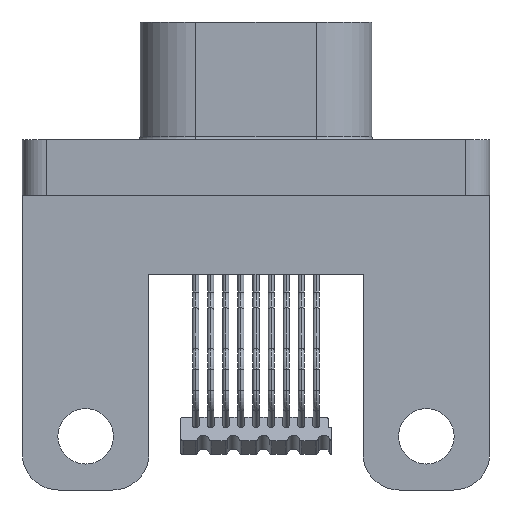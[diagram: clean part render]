
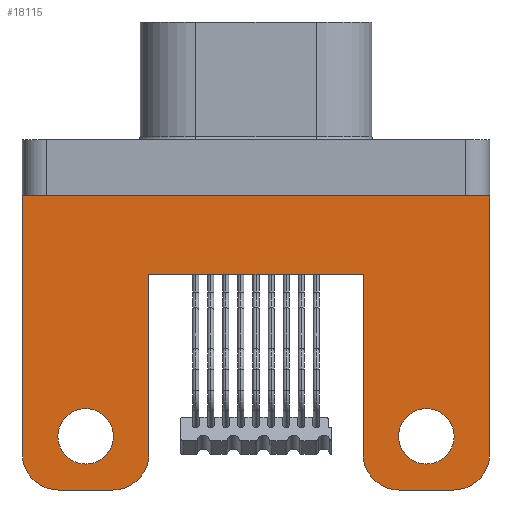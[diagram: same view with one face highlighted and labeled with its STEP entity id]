
A CAD part, front view. The second image highlights one B-rep face of the part: STEP entity #18115.
In plain terms, the highlighted planar face has unit normal (0, -1, 0).
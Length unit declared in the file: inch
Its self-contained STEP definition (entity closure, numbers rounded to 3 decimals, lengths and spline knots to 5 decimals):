
#48 = EDGE_CURVE ( 'NONE', #16648, #7476, #4229, .T. ) ;
#103 = VERTEX_POINT ( 'NONE', #6151 ) ;
#108 = ORIENTED_EDGE ( 'NONE', *, *, #16664, .T. ) ;
#649 = DIRECTION ( 'NONE',  ( 0., 0., 1. ) ) ;
#895 = CARTESIAN_POINT ( 'NONE',  ( 0.3875, -0.17, -0.053 ) ) ;
#1219 = LINE ( 'NONE', #5193, #12667 ) ;
#1389 = CARTESIAN_POINT ( 'NONE',  ( 0.2825, -0.17, -0.452 ) ) ;
#1493 = CARTESIAN_POINT ( 'NONE',  ( 0.3875, -0.17, -0.184 ) ) ;
#1605 = DIRECTION ( 'NONE',  ( -1., 0., 0. ) ) ;
#1625 = AXIS2_PLACEMENT_3D ( 'NONE', #11658, #2302, #13223 ) ;
#1743 = VERTEX_POINT ( 'NONE', #7533 ) ;
#1761 = VERTEX_POINT ( 'NONE', #20035 ) ;
#1768 = VERTEX_POINT ( 'NONE', #4445 ) ;
#1861 = ORIENTED_EDGE ( 'NONE', *, *, #48, .F. ) ;
#1895 = CARTESIAN_POINT ( 'NONE',  ( -0.3285, -0.17, -0.452 ) ) ;
#1905 = CARTESIAN_POINT ( 'NONE',  ( 0., -0.17, -0.541 ) ) ;
#1973 = AXIS2_PLACEMENT_3D ( 'NONE', #16251, #6928, #17832 ) ;
#2184 = EDGE_CURVE ( 'NONE', #4215, #7476, #18905, .T. ) ;
#2302 = DIRECTION ( 'NONE',  ( 0., -1., 0. ) ) ;
#2734 = LINE ( 'NONE', #18046, #10567 ) ;
#2949 = DIRECTION ( 'NONE',  ( 0., 0., 1. ) ) ;
#2997 = CIRCLE ( 'NONE', #16223, 0.046 ) ;
#3105 = CARTESIAN_POINT ( 'NONE',  ( 0.3875, -0.17, -0.053 ) ) ;
#3167 = CARTESIAN_POINT ( 'NONE',  ( 0., -0.17, -0.541 ) ) ;
#3399 = VECTOR ( 'NONE', #6510, 39.37008 ) ;
#3528 = FACE_OUTER_BOUND ( 'NONE', #20017, .T. ) ;
#3538 = LINE ( 'NONE', #16453, #7234 ) ;
#3769 = CARTESIAN_POINT ( 'NONE',  ( 0.3285, -0.17, -0.452 ) ) ;
#3860 = DIRECTION ( 'NONE',  ( 0., -1., 0. ) ) ;
#3877 = CARTESIAN_POINT ( 'NONE',  ( 0.1775, -0.17, -0.481 ) ) ;
#3939 = ORIENTED_EDGE ( 'NONE', *, *, #6059, .F. ) ;
#4215 = VERTEX_POINT ( 'NONE', #3877 ) ;
#4229 = LINE ( 'NONE', #1905, #15651 ) ;
#4289 = EDGE_CURVE ( 'NONE', #10977, #7493, #2734, .T. ) ;
#4361 = CARTESIAN_POINT ( 'NONE',  ( 0.2375, -0.17, -0.541 ) ) ;
#4445 = CARTESIAN_POINT ( 'NONE',  ( -0.1775, -0.17, -0.184 ) ) ;
#4770 = CARTESIAN_POINT ( 'NONE',  ( -0.1775, -0.17, -0.481 ) ) ;
#4792 = EDGE_CURVE ( 'NONE', #1768, #1743, #14665, .T. ) ;
#5032 = EDGE_LOOP ( 'NONE', ( #19955, #5173 ) ) ;
#5173 = ORIENTED_EDGE ( 'NONE', *, *, #19146, .T. ) ;
#5193 = CARTESIAN_POINT ( 'NONE',  ( 0.1775, -0.17, -1.3404 ) ) ;
#5212 = CIRCLE ( 'NONE', #1973, 0.046 ) ;
#5319 = CARTESIAN_POINT ( 'NONE',  ( 0.3875, -0.17, -1.02247 ) ) ;
#5524 = EDGE_CURVE ( 'NONE', #10977, #103, #12212, .T. ) ;
#5850 = VECTOR ( 'NONE', #6263, 39.37008 ) ;
#6017 = DIRECTION ( 'NONE',  ( 0., 1., 0. ) ) ;
#6059 = EDGE_CURVE ( 'NONE', #9235, #103, #12112, .T. ) ;
#6139 = AXIS2_PLACEMENT_3D ( 'NONE', #19326, #10013, #649 ) ;
#6151 = CARTESIAN_POINT ( 'NONE',  ( -0.3275, -0.17, -0.541 ) ) ;
#6263 = DIRECTION ( 'NONE',  ( -1., 0., 0. ) ) ;
#6342 = EDGE_CURVE ( 'NONE', #11381, #1768, #3538, .T. ) ;
#6363 = VECTOR ( 'NONE', #12415, 39.37008 ) ;
#6510 = DIRECTION ( 'NONE',  ( 0., 0., 1. ) ) ;
#6565 = EDGE_CURVE ( 'NONE', #9235, #11381, #12553, .T. ) ;
#6677 = AXIS2_PLACEMENT_3D ( 'NONE', #18617, #9280, #20168 ) ;
#6720 = ORIENTED_EDGE ( 'NONE', *, *, #4289, .F. ) ;
#6735 = VERTEX_POINT ( 'NONE', #895 ) ;
#6762 = CIRCLE ( 'NONE', #1625, 0.06 ) ;
#6887 = DIRECTION ( 'NONE',  ( 0., 1., 0. ) ) ;
#6928 = DIRECTION ( 'NONE',  ( 0., 1., 0. ) ) ;
#7081 = VERTEX_POINT ( 'NONE', #9677 ) ;
#7234 = VECTOR ( 'NONE', #8717, 39.37008 ) ;
#7476 = VERTEX_POINT ( 'NONE', #4361 ) ;
#7493 = VERTEX_POINT ( 'NONE', #10642 ) ;
#7533 = CARTESIAN_POINT ( 'NONE',  ( 0.1775, -0.17, -0.184 ) ) ;
#7588 = LINE ( 'NONE', #15837, #3399 ) ;
#7953 = VECTOR ( 'NONE', #1605, 39.37008 ) ;
#8342 = DIRECTION ( 'NONE',  ( 0., 0., 1. ) ) ;
#8717 = DIRECTION ( 'NONE',  ( 0., 0., 1. ) ) ;
#8718 = DIRECTION ( 'NONE',  ( 0., 0., 1. ) ) ;
#8877 = DIRECTION ( 'NONE',  ( 0., -1., 0. ) ) ;
#9051 = ORIENTED_EDGE ( 'NONE', *, *, #5524, .T. ) ;
#9201 = ORIENTED_EDGE ( 'NONE', *, *, #18756, .T. ) ;
#9235 = VERTEX_POINT ( 'NONE', #16727 ) ;
#9280 = DIRECTION ( 'NONE',  ( 0., 1., 0. ) ) ;
#9677 = CARTESIAN_POINT ( 'NONE',  ( 0.3875, -0.17, -0.481 ) ) ;
#9962 = CARTESIAN_POINT ( 'NONE',  ( 0.3275, -0.17, -0.541 ) ) ;
#10013 = DIRECTION ( 'NONE',  ( 0., -1., 0. ) ) ;
#10331 = EDGE_LOOP ( 'NONE', ( #9201, #18967 ) ) ;
#10567 = VECTOR ( 'NONE', #8718, 39.37008 ) ;
#10642 = CARTESIAN_POINT ( 'NONE',  ( -0.3875, -0.17, -0.053 ) ) ;
#10913 = ORIENTED_EDGE ( 'NONE', *, *, #11480, .T. ) ;
#10977 = VERTEX_POINT ( 'NONE', #17446 ) ;
#11041 = ORIENTED_EDGE ( 'NONE', *, *, #14060, .T. ) ;
#11060 = EDGE_CURVE ( 'NONE', #4215, #1743, #1219, .T. ) ;
#11381 = VERTEX_POINT ( 'NONE', #4770 ) ;
#11480 = EDGE_CURVE ( 'NONE', #6735, #7493, #13647, .T. ) ;
#11658 = CARTESIAN_POINT ( 'NONE',  ( 0.3275, -0.17, -0.481 ) ) ;
#11911 = ORIENTED_EDGE ( 'NONE', *, *, #2184, .T. ) ;
#12036 = AXIS2_PLACEMENT_3D ( 'NONE', #15339, #6017, #16894 ) ;
#12112 = LINE ( 'NONE', #3167, #7953 ) ;
#12212 = CIRCLE ( 'NONE', #6139, 0.06 ) ;
#12309 = DIRECTION ( 'NONE',  ( 0., 1., 0. ) ) ;
#12415 = DIRECTION ( 'NONE',  ( 1., 0., 0. ) ) ;
#12553 = CIRCLE ( 'NONE', #15417, 0.06 ) ;
#12604 = AXIS2_PLACEMENT_3D ( 'NONE', #18189, #8877, #19767 ) ;
#12667 = VECTOR ( 'NONE', #8342, 39.37008 ) ;
#12877 = EDGE_CURVE ( 'NONE', #1761, #16250, #14174, .T. ) ;
#13192 = CARTESIAN_POINT ( 'NONE',  ( -0.2375, -0.17, -0.481 ) ) ;
#13223 = DIRECTION ( 'NONE',  ( 0., 0., 1. ) ) ;
#13647 = LINE ( 'NONE', #3105, #5850 ) ;
#14060 = EDGE_CURVE ( 'NONE', #7081, #6735, #7588, .T. ) ;
#14174 = CIRCLE ( 'NONE', #12036, 0.046 ) ;
#14384 = DIRECTION ( 'NONE',  ( -1., 0., 0. ) ) ;
#14652 = PLANE ( 'NONE',  #14657 ) ;
#14657 = AXIS2_PLACEMENT_3D ( 'NONE', #5319, #6887, #17789 ) ;
#14665 = LINE ( 'NONE', #1493, #6363 ) ;
#14754 = DIRECTION ( 'NONE',  ( 0., 0., 1. ) ) ;
#14830 = ORIENTED_EDGE ( 'NONE', *, *, #6565, .T. ) ;
#15339 = CARTESIAN_POINT ( 'NONE',  ( 0.2825, -0.17, -0.452 ) ) ;
#15417 = AXIS2_PLACEMENT_3D ( 'NONE', #13192, #3860, #14754 ) ;
#15480 = FACE_BOUND ( 'NONE', #10331, .T. ) ;
#15651 = VECTOR ( 'NONE', #14384, 39.37008 ) ;
#15837 = CARTESIAN_POINT ( 'NONE',  ( 0.3875, -0.17, -1.02247 ) ) ;
#16043 = CARTESIAN_POINT ( 'NONE',  ( -0.2365, -0.17, -0.452 ) ) ;
#16064 = ORIENTED_EDGE ( 'NONE', *, *, #11060, .F. ) ;
#16223 = AXIS2_PLACEMENT_3D ( 'NONE', #1389, #12309, #2949 ) ;
#16250 = VERTEX_POINT ( 'NONE', #3769 ) ;
#16251 = CARTESIAN_POINT ( 'NONE',  ( -0.2825, -0.17, -0.452 ) ) ;
#16453 = CARTESIAN_POINT ( 'NONE',  ( -0.1775, -0.17, -1.3404 ) ) ;
#16648 = VERTEX_POINT ( 'NONE', #9962 ) ;
#16664 = EDGE_CURVE ( 'NONE', #16648, #7081, #6762, .T. ) ;
#16727 = CARTESIAN_POINT ( 'NONE',  ( -0.2375, -0.17, -0.541 ) ) ;
#16894 = DIRECTION ( 'NONE',  ( 0., 0., 1. ) ) ;
#16930 = ORIENTED_EDGE ( 'NONE', *, *, #6342, .T. ) ;
#17446 = CARTESIAN_POINT ( 'NONE',  ( -0.3875, -0.17, -0.481 ) ) ;
#17693 = CIRCLE ( 'NONE', #6677, 0.046 ) ;
#17780 = EDGE_CURVE ( 'NONE', #18980, #18000, #17693, .T. ) ;
#17789 = DIRECTION ( 'NONE',  ( 0., 0., 1. ) ) ;
#17832 = DIRECTION ( 'NONE',  ( 0., 0., 1. ) ) ;
#18000 = VERTEX_POINT ( 'NONE', #1895 ) ;
#18046 = CARTESIAN_POINT ( 'NONE',  ( -0.3875, -0.17, -1.02247 ) ) ;
#18115 = ADVANCED_FACE ( 'NONE', ( #20112, #15480, #3528 ), #14652, .F. ) ;
#18189 = CARTESIAN_POINT ( 'NONE',  ( 0.2375, -0.17, -0.481 ) ) ;
#18617 = CARTESIAN_POINT ( 'NONE',  ( -0.2825, -0.17, -0.452 ) ) ;
#18756 = EDGE_CURVE ( 'NONE', #18000, #18980, #5212, .T. ) ;
#18905 = CIRCLE ( 'NONE', #12604, 0.06 ) ;
#18967 = ORIENTED_EDGE ( 'NONE', *, *, #17780, .T. ) ;
#18980 = VERTEX_POINT ( 'NONE', #16043 ) ;
#19146 = EDGE_CURVE ( 'NONE', #16250, #1761, #2997, .T. ) ;
#19326 = CARTESIAN_POINT ( 'NONE',  ( -0.3275, -0.17, -0.481 ) ) ;
#19767 = DIRECTION ( 'NONE',  ( 0., 0., 1. ) ) ;
#19955 = ORIENTED_EDGE ( 'NONE', *, *, #12877, .T. ) ;
#20017 = EDGE_LOOP ( 'NONE', ( #6720, #9051, #3939, #14830, #16930, #20076, #16064, #11911, #1861, #108, #11041, #10913 ) ) ;
#20035 = CARTESIAN_POINT ( 'NONE',  ( 0.2365, -0.17, -0.452 ) ) ;
#20076 = ORIENTED_EDGE ( 'NONE', *, *, #4792, .T. ) ;
#20112 = FACE_BOUND ( 'NONE', #5032, .T. ) ;
#20168 = DIRECTION ( 'NONE',  ( 0., 0., 1. ) ) ;
